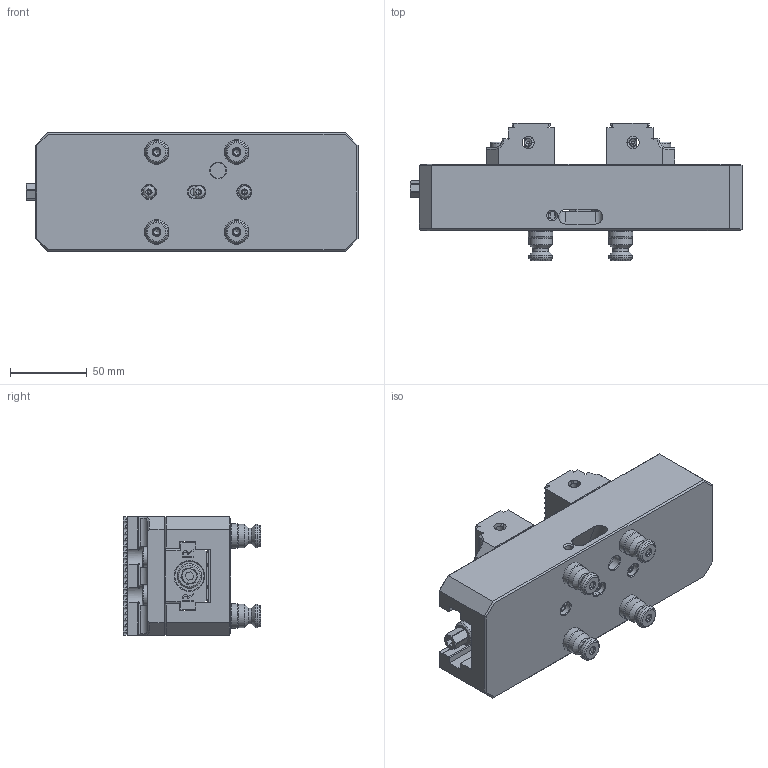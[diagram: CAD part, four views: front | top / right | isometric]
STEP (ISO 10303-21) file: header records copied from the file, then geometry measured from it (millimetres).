
FILE_DESCRIPTION(/* description */ (''),/* implementation_level */ '2;1');
FILE_NAME(/* name */ '1AZV321GA0101-5AXISstp.stp',/* time_stamp */ '2025-01-15T20:33:04+08:00',/* author */ ('UserName'),/* organization */ (''),/* preprocessor_version */ 'ST-DEVELOPER v20',/* originating_system */ 'Autodesk Inventor 2025',/* authorisation */ '');
FILE_SCHEMA (('AUTOMOTIVE_DESIGN { 1 0 10303 214 3 1 1 }'));
Products named in the file (1): 零件73
Bounding box: 216 x 89.36 x 77 mm (x, y, z)
Volume: 681375.6 mm3; surface area: 142888.6 mm2
Topology: 13 solids, 37 shells, 1985 faces, 5304 edges, 3470 vertices
Faces by surface type: plane 962, bspline 499, cylinder 288, cone 175, torus 37, sphere 24
Full cylindrical faces by diameter (mm): 2.5 x4, 3.242 x2, 4 x5, 4.134 x2, 4.917 x10, 6 x2, 6.1 x4, 6.5 x4, 6.647 x16, 7.6 x3, 8 x8, 8.5 x8, 9 x2, 10 x1, 10.2 x4, 11.991 x4, 12 x4, 13 x9, 14 x9, 15 x1, 15.202 x8, 15.997 x4, 16 x7, 19 x2, 28 x4, 29 x1
Entity records: 88219 total; most frequent: CARTESIAN_POINT 40926, ORIENTED_EDGE 10572, DIRECTION 8043, EDGE_CURVE 5286, VERTEX_POINT 3514, LINE 3049, VECTOR 3049, AXIS2_PLACEMENT_3D 2497
